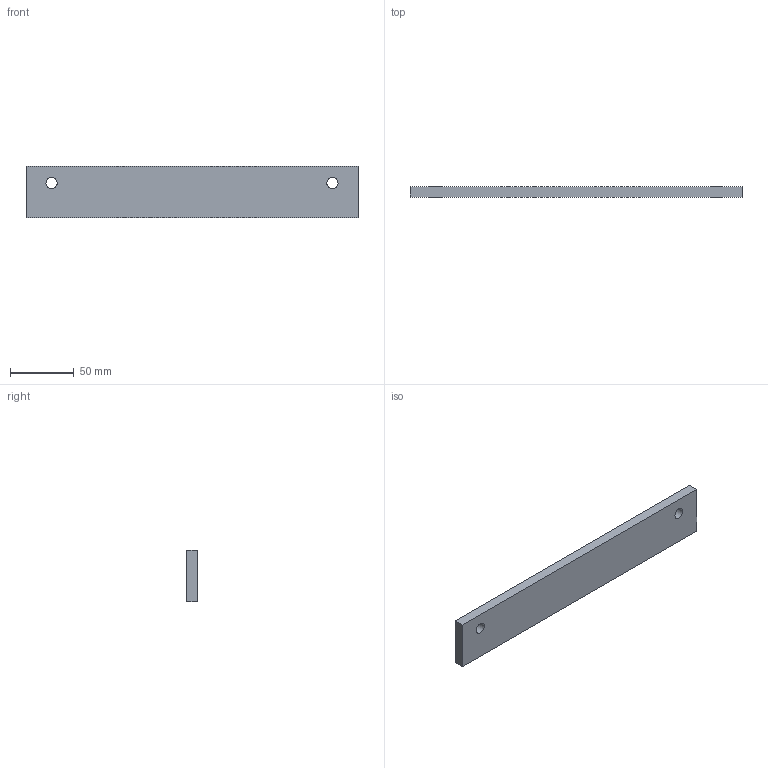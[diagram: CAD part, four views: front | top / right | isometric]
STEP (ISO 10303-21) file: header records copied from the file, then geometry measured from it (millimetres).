
FILE_DESCRIPTION(('Open CASCADE Model'),'2;1');
FILE_NAME('Open CASCADE Shape Model','2026-10-04T02:31:44',('Author'),( 'Open CASCADE'),'Open CASCADE STEP processor 8.0','Open CASCADE 8.0' ,'Unknown');
FILE_SCHEMA(('AUTOMOTIVE_DESIGN { 1 0 10303 214 1 1 1 1 }'));
Length unit declared in the file: millimetre
Products named in the file (1): Open CASCADE STEP translator 8.0 311
Bounding box: 260 x 8 x 40 mm (x, y, z)
Volume: 82226.9 mm3; surface area: 25799.1 mm2
Topology: 1 solids, 1 shells, 8 faces, 18 edges, 12 vertices
Faces by surface type: plane 6, cylinder 2
Full cylindrical faces by diameter (mm): 8.8 x2
Entity records: 478 total; most frequent: DIRECTION 76, CARTESIAN_POINT 75, LINE 46, VECTOR 46, ORIENTED_EDGE 36, PCURVE 36, DEFINITIONAL_REPRESENTATION 36, EDGE_CURVE 18
